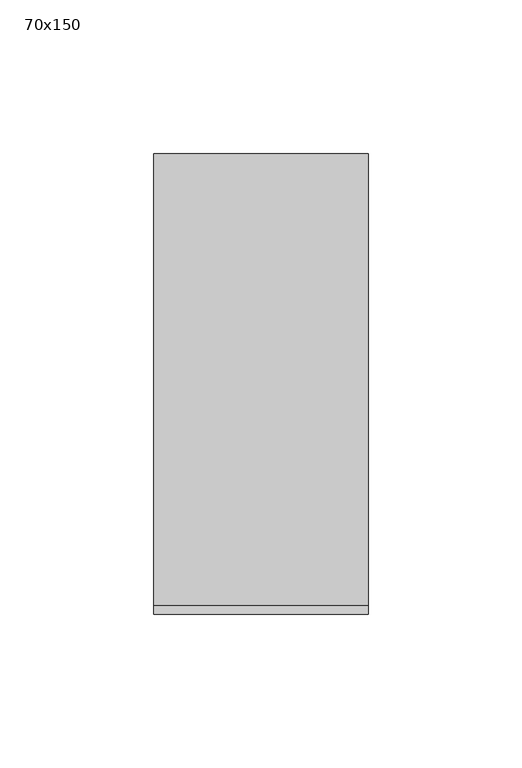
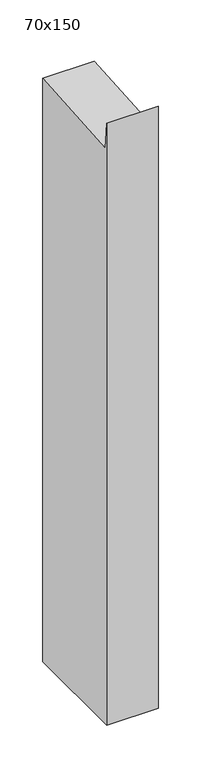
"""IFC4 building model written with IfcOpenShell, lengths in millimetres: member geometry, 長方形のマリオン : 70x150."""

import ifcopenshell
import ifcopenshell.guid

model = None  # the IFC model being written
_history = None  # IfcOwnerHistory: only IFC2X3 demands one
_inside = {}  # id of a spatial element -> (the spatial element, [elements in it])
_under = {}  # id of a project, library or spatial element -> (it, [spatial elements below it])
_declared = {}  # id of a project -> (the project, [libraries it declares])
_typed = {}  # id of a type object -> (the type object, [elements of that type])
_made_of = {}  # id of a material, layer set ... -> (it, [elements and type objects made of it])


def new_model(schema):
    """Start an empty IFC model of exactly this schema.

    Asked for "IFC4X3", IfcOpenShell would pick the latest addendum, in which some entities
    have other attributes; the version numbers below select the first issue.
    IFC2X3 requires an IfcOwnerHistory on every rooted entity: one is made here for all.
    """
    global model, _history
    if schema == "IFC4X3":
        model = ifcopenshell.file(schema_version=(4, 3, 0, 0))
    else:
        model = ifcopenshell.file(schema=schema)
    _inside.clear()
    _under.clear()
    _declared.clear()
    _typed.clear()
    _made_of.clear()
    _history = None
    if model.schema == "IFC2X3":
        org = make("IfcOrganization", Name="unknown")
        user = make(
            "IfcPersonAndOrganization",
            ThePerson=make("IfcPerson", FamilyName="unknown"),
            TheOrganization=org,
        )
        app = make(
            "IfcApplication",
            ApplicationDeveloper=org,
            Version="unknown",
            ApplicationFullName="unknown",
            ApplicationIdentifier="unknown",
        )
        _history = make(
            "IfcOwnerHistory",
            OwningUser=user,
            OwningApplication=app,
            ChangeAction="ADDED",
            CreationDate=0,
        )
    return model


def make(cls, **values):
    """One entity of the class cls with the attributes given. An attribute that is None is left unset."""
    return model.create_entity(
        cls, **{name: value for name, value in values.items() if value is not None}
    )


def rooted(cls, **values):
    """An entity with a GlobalId (a new one), such as an element, a storey or a relation."""
    return make(cls, GlobalId=ifcopenshell.guid.new(), OwnerHistory=_history, **values)


def si_unit(unit_type, name, prefix=None):
    """IfcSIUnit, for example si_unit("LENGTHUNIT", "METRE", prefix="MILLI")."""
    return make("IfcSIUnit", UnitType=unit_type, Prefix=prefix, Name=name)


def assignment(units):
    """IfcUnitAssignment: the units of a project."""
    return None if units is None else make("IfcUnitAssignment", Units=units)


def point(xyz):
    """IfcCartesianPoint."""
    return None if xyz is None else make("IfcCartesianPoint", Coordinates=xyz)


def direction(xyz):
    """IfcDirection."""
    return None if xyz is None else make("IfcDirection", DirectionRatios=xyz)


def frame(location, z_axis=None, x_axis=None):
    """IfcAxis2Placement3D, a coordinate frame: its origin and axes. An axis left out is left unset."""
    return make(
        "IfcAxis2Placement3D",
        Location=point(location),
        Axis=direction(z_axis),
        RefDirection=direction(x_axis),
    )


def origin():
    """The frame at (0, 0, 0) with its axes left unset."""
    return frame((0.0, 0.0, 0.0))


def place(relative_to, where):
    """IfcLocalPlacement: puts the frame where relative to a parent placement (None: the world)."""
    return make(
        "IfcLocalPlacement", PlacementRelTo=relative_to, RelativePlacement=where
    )


def context(
    kind, dimensions, precision=None, world=None, true_north=None, identifier=None
):
    """IfcGeometricRepresentationContext, for example the 3D "Model" context."""
    return make(
        "IfcGeometricRepresentationContext",
        ContextIdentifier=identifier,
        ContextType=kind,
        CoordinateSpaceDimension=dimensions,
        Precision=precision,
        WorldCoordinateSystem=world,
        TrueNorth=true_north,
    )


def project(units=None, contexts=None):
    """IfcProject with its units and contexts."""
    return rooted(
        "IfcProject",
        Name="project",
        RepresentationContexts=contexts,
        UnitsInContext=assignment(units),
    )


def spatial(cls, under=None, at=None, **own):
    """A site, building, storey or space (cls), placed at a placement, below another one or the project."""
    s = rooted(cls, ObjectPlacement=at, **own)
    if under is not None:
        _under.setdefault(under.id(), (under, []))[1].append(s)
    return s


def polyline(points):
    """IfcPolyline through the points."""
    return make("IfcPolyline", Points=[point(p) for p in points])


def outline(outer, holes=None, kind="AREA"):
    """IfcArbitraryClosedProfileDef: a profile drawn as a closed curve; with holes, ...WithVoids."""
    if holes is None:
        return make("IfcArbitraryClosedProfileDef", ProfileType=kind, OuterCurve=outer)
    return make(
        "IfcArbitraryProfileDefWithVoids",
        ProfileType=kind,
        OuterCurve=outer,
        InnerCurves=holes,
    )


def extrude(swept, where, along, depth):
    """IfcExtrudedAreaSolid: the profile swept, set in the frame where, extruded along a direction by depth."""
    return make(
        "IfcExtrudedAreaSolid",
        SweptArea=swept,
        Position=where,
        ExtrudedDirection=direction(along),
        Depth=depth,
    )


def shape(context_of_items, identifier, shape_type, items):
    """IfcShapeRepresentation: the items that make up one representation, for example the "Body"."""
    return make(
        "IfcShapeRepresentation",
        ContextOfItems=context_of_items,
        RepresentationIdentifier=identifier,
        RepresentationType=shape_type,
        Items=items,
    )


def source(mapping_origin, context_of_items, identifier, shape_type, items):
    """IfcRepresentationMap: a shape defined once, which mapped items show again and again."""
    return make(
        "IfcRepresentationMap",
        MappingOrigin=mapping_origin,
        MappedRepresentation=shape(context_of_items, identifier, shape_type, items),
    )


def transform(
    local_origin,
    x_axis=None,
    y_axis=None,
    z_axis=None,
    scale=None,
    scale2=None,
    scale3=None,
    uniform=True,
):
    """IfcCartesianTransformationOperator3D, or its non-uniform kind. x_axis, y_axis, z_axis: its Axis1, 2, 3."""
    if uniform:
        return make(
            "IfcCartesianTransformationOperator3D",
            Axis1=direction(x_axis),
            Axis2=direction(y_axis),
            LocalOrigin=point(local_origin),
            Scale=scale,
            Axis3=direction(z_axis),
        )
    return make(
        "IfcCartesianTransformationOperator3DnonUniform",
        Axis1=direction(x_axis),
        Axis2=direction(y_axis),
        LocalOrigin=point(local_origin),
        Scale=scale,
        Axis3=direction(z_axis),
        Scale2=scale2,
        Scale3=scale3,
    )


def mapped(mapping_source, mapping_target):
    """IfcMappedItem: shows the shape of a source again, moved by a transform."""
    return make(
        "IfcMappedItem", MappingSource=mapping_source, MappingTarget=mapping_target
    )


def made_of(thing, what):
    """Note that an element or type object is made of a material, layer set ...; save() writes the relation."""
    if what is not None:
        _made_of.setdefault(what.id(), (what, []))[1].append(thing)
    return thing


def element(
    cls,
    number,
    at=None,
    inside=None,
    cuts=None,
    type_object=None,
    material=None,
    context=None,
    identifier="Body",
    shape_type=None,
    held_by="IfcProductDefinitionShape",
    body=None,
    shapes=None,
    **own,
):
    """One element of the class cls, such as IfcWall. Its Tag is "e" and its number.

    at: its placement. inside: the storey or other place that contains it. cuts: it is an
    opening in that element (IfcRelVoidsElement). A single representation is given by context,
    identifier, shape_type and body (its items); several are given by shapes. held_by: the class
    of the entity that holds the representations. save() writes the other relations.
    """
    e = rooted(cls, Tag="e%d" % number, ObjectPlacement=at, **own)
    if body is not None:
        shapes = [shape(context, identifier, shape_type, body)]
    if shapes is not None:
        e.Representation = make(held_by, Representations=shapes)
    if inside is not None:
        _inside.setdefault(inside.id(), (inside, []))[1].append(e)
    if cuts is not None:
        rooted(
            "IfcRelVoidsElement", RelatingBuildingElement=cuts, RelatedOpeningElement=e
        )
    if type_object is not None:
        _typed.setdefault(type_object.id(), (type_object, []))[1].append(e)
    return made_of(e, material)


def aggregate(whole, parts):
    """IfcRelAggregates: a whole, such as a stair, and the parts it consists of."""
    return rooted("IfcRelAggregates", RelatingObject=whole, RelatedObjects=parts)


def save(model, path):
    """Write the relations noted so far, then the file.

    IfcRelAggregates (storeys below a building ...), IfcRelContainedInSpatialStructure (elements
    in a storey), IfcRelDefinesByType, IfcRelAssociatesMaterial and IfcRelDeclares: one each for
    every whole, place, type object, material and project.
    """
    for whole, parts in _under.values():
        aggregate(whole, parts)
    for where, things in _inside.values():
        rooted(
            "IfcRelContainedInSpatialStructure",
            RelatedElements=things,
            RelatingStructure=where,
        )
    for kind, things in _typed.values():
        rooted("IfcRelDefinesByType", RelatedObjects=things, RelatingType=kind)
    for what, things in _made_of.values():
        rooted("IfcRelAssociatesMaterial", RelatedObjects=things, RelatingMaterial=what)
    for by, libraries in _declared.values():
        rooted("IfcRelDeclares", RelatingContext=by, RelatedDefinitions=libraries)
    model.write(path)


def member_70x150_91355738(model_context):
    return source(origin(), model_context, "Body", "SweptSolid", [
        extrude(outline(polyline([(-75.0, 32.1560401), (-72.1340754, -5.5792455), (75.0, 5.5953132), (75.0, -830.0), (-75.0, -830.0), (-75.0, 32.1560401)])), frame((-70.0, 0.0, 0.0), z_axis=(1.0, 0.0, 0.0), x_axis=(0.0, 1.0, 0.0)), (0.0, 0.0, 1.0), 70.0),
    ])


if __name__ == "__main__":
    model = new_model("IFC4")
    model_context = context("Model", 3, world=origin())
    ifc_project = project(units=[si_unit("LENGTHUNIT", "METRE", prefix="MILLI")], contexts=[model_context])
    site = spatial("IfcSite", under=ifc_project)
    building = spatial("IfcBuilding", under=site)
    placement = place(None, origin())
    member_70x150_shape = member_70x150_91355738(model_context)
    element("IfcMember", 1, ObjectType="長方形のマリオン : 70x150", at=placement, inside=building, context=model_context, shape_type="MappedRepresentation", body=[
        mapped(member_70x150_shape, transform((0.0, 0.0, 0.0), x_axis=(1.0, 0.0, 0.0), y_axis=(0.0, 1.0, 0.0), z_axis=(0.0, 0.0, 1.0))),
    ])
    save(model, "model.ifc")
